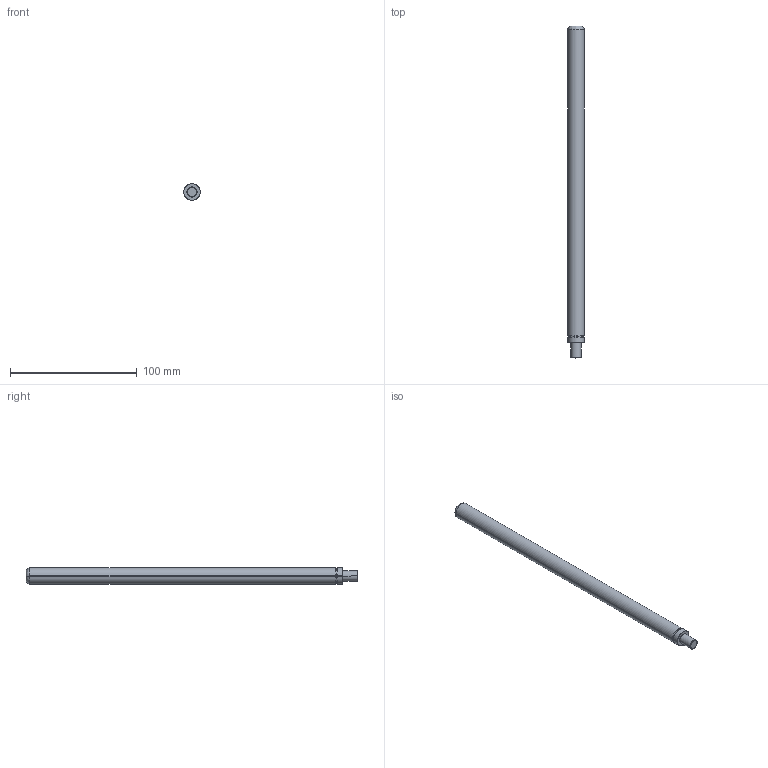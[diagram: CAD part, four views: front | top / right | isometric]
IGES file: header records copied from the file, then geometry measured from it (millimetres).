
Start section: SolidWorks IGES file using analytic representation for surfaces
Bounding box: 13 x 262 x 13 mm (x, y, z)
Surface area: 10717.6 mm2 (no closed solid volume)
Topology: 0 solids, 0 shells, 17 faces, 184 edges, 184 vertices
Faces by surface type: bspline 9, revolution 8
